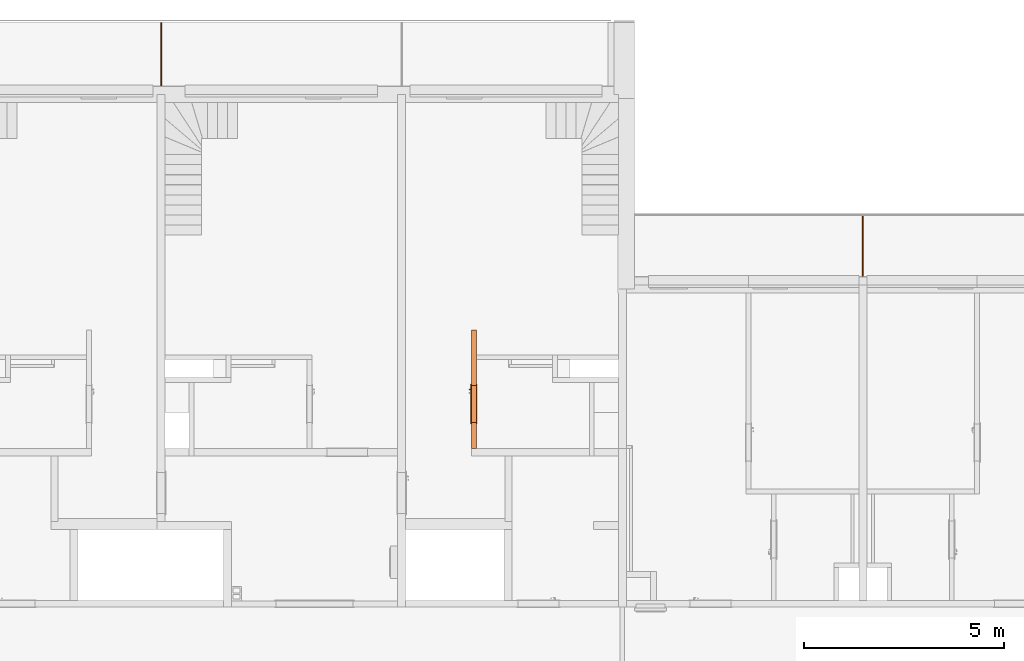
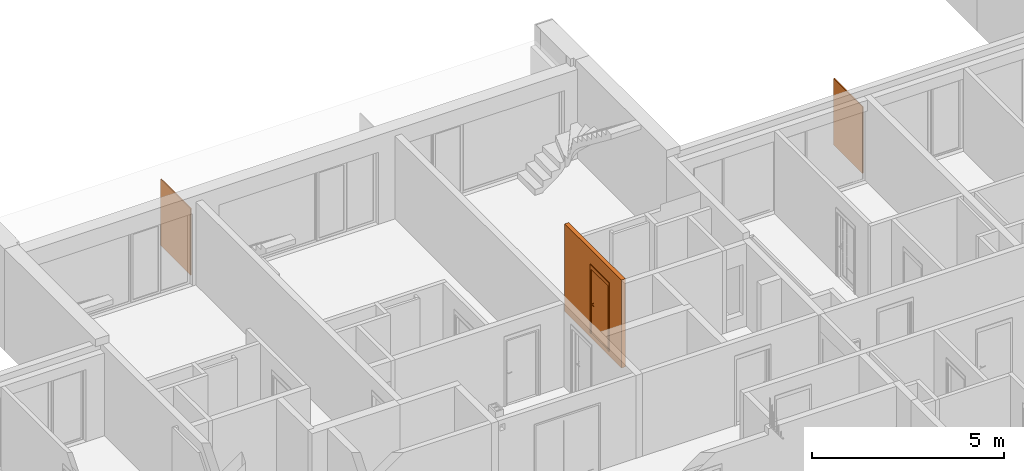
# One storey, part 32 of 61: 4 proxies, 1 opening.
"""IFC2X3 building model written with IfcOpenShell, lengths in millimetres."""

from ifc_helpers import new_model, entity, si_unit, converted_unit, derived_unit, money_unit, direction, frame, origin_with_axes, origin_2d_with_axis, place, context, subcontext, project, spatial, polyline, rectangle, outline, extrude, open_shell, faceted_brep, surface_model, source, transform, mapped, material, type_object, element, fill, save


model = new_model("IFC2X3")

# Units and contexts
model_context = context("Model", 3, precision=0.01, world=origin_with_axes(), true_north=direction((0.34421633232, 0.938890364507)))
body_context = subcontext(model_context, "Body", "Model", "MODEL_VIEW")
ifc_project = project(units=[si_unit("LENGTHUNIT", "METRE", prefix="MILLI"), si_unit("AREAUNIT", "SQUARE_METRE"), si_unit("VOLUMEUNIT", "CUBIC_METRE"), converted_unit("PLANEANGLEUNIT", "DEGREE", entity("IfcPlaneAngleMeasure", 0.0174532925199), si_unit("PLANEANGLEUNIT", "RADIAN"), dimensions=[0, 0, 0, 0, 0, 0, 0]), si_unit("SOLIDANGLEUNIT", "STERADIAN"), money_unit("USD"), converted_unit("TIMEUNIT", "Year", entity("IfcTimeMeasure", 31556926.0), si_unit("TIMEUNIT", "SECOND"), dimensions=[0, 0, 1, 0, 0, 0, 0]), si_unit("MASSUNIT", "GRAM", prefix="KILO"), si_unit("THERMODYNAMICTEMPERATUREUNIT", "DEGREE_CELSIUS"), si_unit("LUMINOUSINTENSITYUNIT", "LUMEN"), si_unit("ENERGYUNIT", "JOULE", prefix="MEGA"), derived_unit("THERMALCONDUCTANCEUNIT", [(si_unit("POWERUNIT", "WATT"), 1), (si_unit("LENGTHUNIT", "METRE"), -1), (si_unit("THERMODYNAMICTEMPERATUREUNIT", "KELVIN"), -1)]), derived_unit("SPECIFICHEATCAPACITYUNIT", [(si_unit("ENERGYUNIT", "JOULE"), 1), (si_unit("MASSUNIT", "GRAM", prefix="KILO"), -1), (si_unit("THERMODYNAMICTEMPERATUREUNIT", "KELVIN"), -1)]), derived_unit("MASSDENSITYUNIT", [(si_unit("MASSUNIT", "GRAM", prefix="KILO"), 1), (si_unit("VOLUMEUNIT", "CUBIC_METRE"), -1)])], contexts=[model_context])

# Site, building, storey
site_placement = place(None, origin_with_axes())
site = spatial("IfcSite", under=ifc_project, at=site_placement, Name="USTRONIE MORSKIE", CompositionType="ELEMENT")
building_placement = place(site_placement, origin_with_axes())
building = spatial("IfcBuilding", under=site, at=building_placement, Name="Budynek", CompositionType="ELEMENT")
storey_placement = place(building_placement, frame((0.0, 0.0, 13000.0), z_axis=(0.0, 0.0, 1.0), x_axis=(1.0, 0.0, 0.0)))
storey = spatial("IfcBuildingStorey", under=building, at=storey_placement, Name="PIĘTRO 4", CompositionType="ELEMENT", Elevation=13000.0)

# Proxies, opening
ifc_material_1 = material(Name="Bloczki silikatowe")
building_element_proxy_type_1 = type_object("IfcBuildingElementProxyType", Name="Bloczki silikatowe 120", PredefinedType="NOTDEFINED")
proxy_1_placement = place(storey_placement, frame((392617.911316, 743681.199036, -160.0), z_axis=(0.0, 0.0, 1.0), x_axis=(0.0, -1.0, 0.0)))
proxy_1 = element("IfcBuildingElementProxy", 1, at=proxy_1_placement, inside=storey, type_object=building_element_proxy_type_1, material=ifc_material_1, Name="SW-04", context=body_context, shape_type="Brep", body=[
    faceted_brep([(0.0, -60.0, 0.0), (0.0, -60.0, 2800.0), (0.0, 60.0, 2800.0), (0.0, 60.0, 0.0), (2960.0, -60.0, 0.0), (2960.0, -60.0, 2800.0), (2960.0, 60.0, 2800.0), (2960.0, 60.0, 0.0)], [[[0, 1, 2, 3]], [[4, 5, 1, 0]], [[5, 6, 2, 1]], [[3, 2, 6, 7]], [[0, 3, 7, 4]], [[7, 6, 5, 4]]]),
])
opening_placement = place(proxy_1_placement, frame((1850.00001479, 0.0, 160.0), z_axis=(0.0, 0.0, 1.0), x_axis=(1.0, 0.0, 0.0)))
opening = element("IfcOpeningElement", 2, at=opening_placement, cuts=proxy_1, Name="Dw.4", context=body_context, shape_type="SweptSolid", body=[
    extrude(rectangle(XDim=920.0, YDim=2070.0, at=origin_2d_with_axis()), frame((0.0, -120.0, 1035.0), z_axis=(0.0, -1.0, 0.0), x_axis=(1.0, 0.0, 0.0)), (0.0, 0.0, -1.0), 360.0),
    extrude(rectangle(XDim=994.0, YDim=2177.0, at=origin_2d_with_axis()), frame((0.0, -60.0, 1088.5), z_axis=(0.0, -1.0, 0.0), x_axis=(1.0, 0.0, 0.0)), (0.0, 0.0, 1.0), 120.0),
    extrude(rectangle(XDim=994.0, YDim=2177.0, at=origin_2d_with_axis()), frame((0.0, 60.0, 1088.5), z_axis=(0.0, 1.0, 0.0), x_axis=(1.0, 0.0, 0.0)), (0.0, 0.0, 1.0), 120.0),
])
building_element_proxy_type_2 = type_object("IfcBuildingElementProxyType", Name="Drzwi 23", PredefinedType="NOTDEFINED")
shared_shape = source(origin_with_axes(), body_context, "Body", "SurfaceModel", [
    faceted_brep([(460.0, 0.0, 0.0), (435.0, 0.0, 0.0), (435.0, 5.0, 0.0), (460.0, 5.0, 0.0), (460.0, 0.0, 2070.0), (435.0, 0.0, 2045.0), (435.0, 5.0, 2045.0), (460.0, 5.0, 2070.0)], [[[0, 1, 2, 3]], [[0, 4, 5, 1]], [[1, 5, 6, 2]], [[3, 2, 6, 7]], [[4, 0, 3, 7]], [[5, 4, 7, 6]]]),
    faceted_brep([(-460.0, 0.0, 2070.0), (-435.0, 0.0, 2045.0), (-435.0, 5.0, 2045.0), (-460.0, 5.0, 2070.0), (-460.0, 0.0, 0.0), (-435.0, 0.0, 0.0), (-435.0, 5.0, 0.0), (-460.0, 5.0, 0.0)], [[[0, 1, 2, 3]], [[0, 4, 5, 1]], [[1, 5, 6, 2]], [[3, 2, 6, 7]], [[4, 0, 3, 7]], [[5, 4, 7, 6]]]),
    faceted_brep([(435.0, 0.0, 2045.0), (-435.0, 0.0, 2045.0), (-435.0, 5.0, 2045.0), (435.0, 5.0, 2045.0), (460.0, 0.0, 2070.0), (-460.0, 0.0, 2070.0), (-460.0, 5.0, 2070.0), (460.0, 5.0, 2070.0)], [[[0, 1, 2, 3]], [[0, 4, 5, 1]], [[1, 5, 6, 2]], [[3, 2, 6, 7]], [[4, 0, 3, 7]], [[5, 4, 7, 6]]]),
    faceted_brep([(497.0, 24.0, 0.0), (497.0, 5.0, 0.0), (447.0, 5.0, 0.0), (447.0, 24.0, 0.0), (497.0, 24.0, 2177.0), (497.0, 5.0, 2177.0), (447.0, 5.0, 2057.0), (447.0, 24.0, 2057.0)], [[[0, 1, 2, 3]], [[4, 5, 1, 0]], [[1, 5, 6, 2]], [[3, 2, 6, 7]], [[0, 3, 7, 4]], [[7, 6, 5, 4]]]),
    faceted_brep([(-497.0, 24.0, 2177.0), (-497.0, 5.0, 2177.0), (-447.0, 5.0, 2057.0), (-447.0, 24.0, 2057.0), (-497.0, 24.0, 0.0), (-497.0, 5.0, 0.0), (-447.0, 5.0, 0.0), (-447.0, 24.0, 0.0)], [[[0, 1, 2, 3]], [[4, 5, 1, 0]], [[1, 5, 6, 2]], [[3, 2, 6, 7]], [[0, 3, 7, 4]], [[7, 6, 5, 4]]]),
    faceted_brep([(497.0, 24.0, 2177.0), (497.0, 5.0, 2177.0), (447.0, 5.0, 2057.0), (447.0, 24.0, 2057.0), (-497.0, 24.0, 2177.0), (-497.0, 5.0, 2177.0), (-447.0, 5.0, 2057.0), (-447.0, 24.0, 2057.0)], [[[0, 1, 2, 3]], [[4, 5, 1, 0]], [[1, 5, 6, 2]], [[3, 2, 6, 7]], [[0, 3, 7, 4]], [[7, 6, 5, 4]]]),
    faceted_brep([(497.0, -134.0, 0.0), (447.0, -134.0, 0.0), (447.0, -115.0, 0.0), (497.0, -115.0, 0.0), (497.0, -134.0, 2177.0), (447.0, -134.0, 2057.0), (447.0, -115.0, 2057.0), (497.0, -115.0, 2177.0)], [[[0, 1, 2, 3]], [[0, 4, 5, 1]], [[1, 5, 6, 2]], [[3, 2, 6, 7]], [[4, 0, 3, 7]], [[5, 4, 7, 6]]]),
    faceted_brep([(-497.0, -134.0, 2177.0), (-447.0, -134.0, 2057.0), (-447.0, -115.0, 2057.0), (-497.0, -115.0, 2177.0), (-497.0, -134.0, 0.0), (-447.0, -134.0, 0.0), (-447.0, -115.0, 0.0), (-497.0, -115.0, 0.0)], [[[0, 1, 2, 3]], [[0, 4, 5, 1]], [[1, 5, 6, 2]], [[3, 2, 6, 7]], [[4, 0, 3, 7]], [[5, 4, 7, 6]]]),
    faceted_brep([(497.0, -134.0, 2177.0), (447.0, -134.0, 2057.0), (447.0, -115.0, 2057.0), (497.0, -115.0, 2177.0), (-497.0, -134.0, 2177.0), (-447.0, -134.0, 2057.0), (-447.0, -115.0, 2057.0), (-497.0, -115.0, 2177.0)], [[[0, 1, 2, 3]], [[0, 4, 5, 1]], [[1, 5, 6, 2]], [[3, 2, 6, 7]], [[4, 0, 3, 7]], [[5, 4, 7, 6]]]),
    faceted_brep([(400.0, -40.0, 0.0), (400.0, -115.0, 0.0), (400.0, -115.0, 2000.0), (400.0, -40.0, 2000.0), (412.0, -40.0, 0.0), (412.0, 0.0, 0.0), (460.0, 0.0, 0.0), (460.0, -115.0, 0.0), (460.0, -115.0, 2000.0), (412.0, -40.0, 2000.0), (460.0, 0.0, 2000.0), (412.0, 0.0, 2000.0)], [[[0, 1, 2, 3]], [[4, 5, 6, 7, 1, 0]], [[1, 7, 8, 2]], [[9, 3, 2, 8, 10, 11]], [[9, 4, 0, 3]], [[11, 5, 4, 9]], [[11, 10, 6, 5]], [[6, 10, 8, 7]]]),
    faceted_brep([(-412.0, -40.0, 2000.0), (-412.0, 0.0, 2000.0), (-460.0, 0.0, 2000.0), (-460.0, -115.0, 2000.0), (-400.0, -115.0, 2000.0), (-400.0, -40.0, 2000.0), (-412.0, -40.0, 0.0), (-412.0, 0.0, 0.0), (-460.0, 0.0, 0.0), (-460.0, -115.0, 0.0), (-400.0, -115.0, 0.0), (-400.0, -40.0, 0.0)], [[[0, 1, 2, 3, 4, 5]], [[0, 6, 7, 1]], [[7, 8, 2, 1]], [[2, 8, 9, 3]], [[3, 9, 10, 4]], [[5, 4, 10, 11]], [[5, 11, 6, 0]], [[6, 11, 10, 9, 8, 7]]]),
    faceted_brep([(412.0, 0.0, 2012.0), (-412.0, 0.0, 2012.0), (-412.0, 0.0, 2000.0), (-460.0, 0.0, 2000.0), (-460.0, 0.0, 2070.0), (460.0, 0.0, 2070.0), (460.0, 0.0, 2000.0), (412.0, 0.0, 2000.0), (412.0, -40.0, 2012.0), (-412.0, -40.0, 2012.0), (-412.0, -40.0, 2000.0), (-400.0, -40.0, 2000.0), (-400.0, -115.0, 2000.0), (-460.0, -115.0, 2000.0), (-460.0, -115.0, 2070.0), (460.0, -115.0, 2070.0), (460.0, -115.0, 2000.0), (412.0, -40.0, 2000.0), (400.0, -115.0, 2000.0), (400.0, -40.0, 2000.0)], [[[0, 1, 2, 3, 4, 5, 6, 7]], [[0, 8, 9, 1]], [[1, 9, 10, 2]], [[10, 11, 12, 13, 3, 2]], [[4, 3, 13, 14]], [[5, 4, 14, 15]], [[6, 5, 15, 16]], [[17, 7, 6, 16, 18, 19]], [[7, 17, 8, 0]], [[10, 9, 8, 17, 19, 11]], [[19, 18, 12, 11]], [[12, 18, 16, 15, 14, 13]]]),
    faceted_brep([(390.5, -40.0, 1060.0), (333.5, -40.0, 1060.0), (333.5, -43.0, 1060.0), (390.5, -43.0, 1060.0), (390.5, -40.0, 870.0), (333.5, -40.0, 870.0), (333.5, -43.0, 870.0), (390.5, -43.0, 870.0)], [[[0, 1, 2, 3]], [[0, 4, 5, 1]], [[1, 5, 6, 2]], [[3, 2, 6, 7]], [[4, 0, 3, 7]], [[5, 4, 7, 6]]]),
    faceted_brep([(362.0, -104.0, 990.0), (367.0, -104.0, 991.339745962), (367.0, -111.0, 991.339745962), (362.0, -111.0, 990.0), (337.0, -104.0, 990.0), (337.0, -104.0, 1010.0), (362.0, -104.0, 1010.0), (367.0, -104.0, 1008.66025404), (370.660254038, -104.0, 1005.0), (372.0, -104.0, 1000.0), (370.660254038, -104.0, 995.0), (370.660254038, -111.0, 995.0), (372.0, -111.0, 1000.0), (370.660254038, -111.0, 1005.0), (367.0, -111.0, 1008.66025404), (362.0, -111.0, 1010.0), (337.0, -111.0, 1010.0), (337.0, -111.0, 990.0)], [[[0, 1, 2, 3]], [[0, 4, 5, 6, 7, 8, 9, 10, 1]], [[1, 10, 11, 2]], [[3, 2, 11, 12, 13, 14, 15, 16, 17]], [[4, 0, 3, 17]], [[5, 4, 17, 16]], [[6, 5, 16, 15]], [[7, 6, 15, 14]], [[8, 7, 14, 13]], [[9, 8, 13, 12]], [[10, 9, 12, 11]]]),
    surface_model("IfcShellBasedSurfaceModel", [(337.0, -104.0, 1010.0), (323.901717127, -104.0, 1009.60730092), (323.596090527, -111.0, 1009.60730092), (337.0, -104.0, 990.0), (323.901717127, -104.0, 990.392699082), (296.890283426, -108.663544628, 1008.82190275), (337.0, -111.0, 1010.0), (337.0, -111.0, 990.0), (297.804837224, -101.716818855, 991.178097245), (297.804837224, -101.716818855, 1008.82190275), (296.890283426, -108.663544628, 991.178097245), (323.596090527, -111.0, 990.392699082), (272.006256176, -97.1678329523, 991.963495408), (272.006256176, -97.1678329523, 1008.03650459), (270.489735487, -104.008415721, 1008.03650459), (270.489735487, -104.008415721, 991.963495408), (246.702316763, -90.3876628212, 992.748893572), (246.702316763, -90.3876628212, 1007.25110643), (244.59537082, -97.0700416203, 1007.25110643), (244.59537082, -97.0700416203, 992.748893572), (238.829442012, -87.5221707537, 993.0), (238.829442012, -87.5221707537, 1007.0), (236.538795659, -94.1376880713, 1007.0), (236.538795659, -94.1376880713, 993.0)], [open_shell([[[0, 1, 2]], [[0, 3, 4, 1]], [[1, 5, 2]], [[0, 2, 6]], [[4, 3, 7]], [[1, 4, 8, 9]], [[1, 9, 5]], [[2, 5, 10, 11]], [[6, 2, 11, 7]], [[4, 7, 11]], [[8, 4, 11]], [[9, 8, 12, 13]], [[9, 14, 5]], [[5, 14, 15, 10]], [[8, 11, 10]], [[12, 8, 10]], [[13, 12, 16, 17]], [[9, 13, 14]], [[14, 18, 19, 15]], [[12, 10, 15]], [[16, 12, 15]], [[17, 16, 20, 21]], [[13, 17, 18]], [[13, 18, 14]], [[18, 22, 23, 19]], [[16, 15, 19]], [[20, 16, 19]], [[21, 20, 23, 22]], [[17, 21, 22]], [[17, 22, 18]], [[20, 19, 23]]])]),
    faceted_brep([(351.607695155, -53.0, 994.0), (350.0, -53.0, 1000.0), (349.0, -43.0, 1000.0), (350.741669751, -43.0, 993.5), (356.0, -53.0, 989.607695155), (362.0, -53.0, 988.0), (368.0, -53.0, 989.607695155), (372.392304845, -53.0, 994.0), (374.0, -53.0, 1000.0), (372.392304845, -53.0, 1006.0), (368.0, -53.0, 1010.39230485), (362.0, -53.0, 1012.0), (356.0, -53.0, 1010.39230485), (351.607695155, -53.0, 1006.0), (350.741669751, -43.0, 1006.5), (355.5, -43.0, 1011.25833025), (362.0, -43.0, 1013.0), (368.5, -43.0, 1011.25833025), (373.258330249, -43.0, 1006.5), (375.0, -43.0, 1000.0), (373.258330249, -43.0, 993.5), (368.5, -43.0, 988.741669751), (362.0, -43.0, 987.0), (355.5, -43.0, 988.741669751)], [[[0, 1, 2, 3]], [[1, 0, 4, 5, 6, 7, 8, 9, 10, 11, 12, 13]], [[1, 13, 14, 2]], [[2, 14, 15, 16, 17, 18, 19, 20, 21, 22, 23, 3]], [[4, 0, 3, 23]], [[5, 4, 23, 22]], [[6, 5, 22, 21]], [[7, 6, 21, 20]], [[8, 7, 20, 19]], [[9, 8, 19, 18]], [[10, 9, 18, 17]], [[11, 10, 17, 16]], [[12, 11, 16, 15]], [[13, 12, 15, 14]]]),
    faceted_brep([(344.679491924, -47.0, 895.0), (342.0, -47.0, 905.0), (340.0, -43.0, 905.0), (342.947441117, -43.0, 894.0), (352.0, -47.0, 887.679491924), (362.0, -47.0, 885.0), (372.0, -47.0, 887.679491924), (379.320508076, -47.0, 895.0), (382.0, -47.0, 905.0), (379.320508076, -47.0, 915.0), (372.0, -47.0, 922.320508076), (362.0, -47.0, 925.0), (352.0, -47.0, 922.320508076), (344.679491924, -47.0, 915.0), (342.947441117, -43.0, 916.0), (351.0, -43.0, 924.052558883), (362.0, -43.0, 927.0), (373.0, -43.0, 924.052558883), (381.052558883, -43.0, 916.0), (384.0, -43.0, 905.0), (381.052558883, -43.0, 894.0), (373.0, -43.0, 885.947441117), (362.0, -43.0, 883.0), (351.0, -43.0, 885.947441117)], [[[0, 1, 2, 3]], [[1, 0, 4, 5, 6, 7, 8, 9, 10, 11, 12, 13]], [[1, 13, 14, 2]], [[2, 14, 15, 16, 17, 18, 19, 20, 21, 22, 23, 3]], [[4, 0, 3, 23]], [[5, 4, 23, 22]], [[6, 5, 22, 21]], [[7, 6, 21, 20]], [[8, 7, 20, 19]], [[9, 8, 19, 18]], [[10, 9, 18, 17]], [[11, 10, 17, 16]], [[12, 11, 16, 15]], [[13, 12, 15, 14]]]),
    faceted_brep([(357.050252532, -49.0, 909.050252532), (355.0, -49.0, 914.0), (354.0, -47.0, 914.0), (356.343145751, -47.0, 908.343145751), (362.0, -49.0, 907.0), (366.949747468, -49.0, 909.050252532), (369.0, -49.0, 914.0), (366.949747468, -49.0, 918.949747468), (362.0, -49.0, 921.0), (357.050252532, -49.0, 918.949747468), (356.343145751, -47.0, 919.656854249), (362.0, -47.0, 922.0), (367.656854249, -47.0, 919.656854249), (370.0, -47.0, 914.0), (367.656854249, -47.0, 908.343145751), (362.0, -47.0, 906.0)], [[[0, 1, 2, 3]], [[1, 0, 4, 5, 6, 7, 8, 9]], [[1, 9, 10, 2]], [[2, 10, 11, 12, 13, 14, 15, 3]], [[4, 0, 3, 15]], [[5, 4, 15, 14]], [[6, 5, 14, 13]], [[7, 6, 13, 12]], [[8, 7, 12, 11]], [[9, 8, 11, 10]]]),
    faceted_brep([(362.0, -53.0, 1010.0), (357.0, -53.0, 1008.66025404), (357.0, -104.0, 1008.66025404), (362.0, -104.0, 1010.0), (367.0, -53.0, 1008.66025404), (370.660254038, -53.0, 1005.0), (372.0, -53.0, 1000.0), (370.660254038, -53.0, 995.0), (367.0, -53.0, 991.339745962), (362.0, -53.0, 990.0), (357.0, -53.0, 991.339745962), (353.339745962, -53.0, 995.0), (352.0, -53.0, 1000.0), (353.339745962, -53.0, 1005.0), (353.339745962, -104.0, 1005.0), (352.0, -104.0, 1000.0), (353.339745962, -104.0, 995.0), (357.0, -104.0, 991.339745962), (362.0, -104.0, 990.0), (367.0, -104.0, 991.339745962), (370.660254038, -104.0, 995.0), (372.0, -104.0, 1000.0), (370.660254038, -104.0, 1005.0), (367.0, -104.0, 1008.66025404)], [[[0, 1, 2, 3]], [[0, 4, 5, 6, 7, 8, 9, 10, 11, 12, 13, 1]], [[1, 13, 14, 2]], [[3, 2, 14, 15, 16, 17, 18, 19, 20, 21, 22, 23]], [[4, 0, 3, 23]], [[5, 4, 23, 22]], [[6, 5, 22, 21]], [[7, 6, 21, 20]], [[8, 7, 20, 19]], [[9, 8, 19, 18]], [[10, 9, 18, 17]], [[11, 10, 17, 16]], [[12, 11, 16, 15]], [[13, 12, 15, 14]]]),
    faceted_brep([(390.5, 0.0, 1060.0), (390.5, 3.0, 1060.0), (333.5, 3.0, 1060.0), (333.5, 0.0, 1060.0), (390.5, 0.0, 870.0), (390.5, 3.0, 870.0), (333.5, 3.0, 870.0), (333.5, 0.0, 870.0)], [[[0, 1, 2, 3]], [[4, 5, 1, 0]], [[1, 5, 6, 2]], [[3, 2, 6, 7]], [[0, 3, 7, 4]], [[7, 6, 5, 4]]]),
    faceted_brep([(362.0, 64.0, 990.0), (362.0, 71.0, 990.0), (367.0, 71.0, 991.339745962), (367.0, 64.0, 991.339745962), (337.0, 64.0, 990.0), (337.0, 71.0, 990.0), (337.0, 71.0, 1010.0), (362.0, 71.0, 1010.0), (367.0, 71.0, 1008.66025404), (370.660254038, 71.0, 1005.0), (372.0, 71.0, 1000.0), (370.660254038, 71.0, 995.0), (370.660254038, 64.0, 995.0), (372.0, 64.0, 1000.0), (370.660254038, 64.0, 1005.0), (367.0, 64.0, 1008.66025404), (362.0, 64.0, 1010.0), (337.0, 64.0, 1010.0)], [[[0, 1, 2, 3]], [[4, 5, 1, 0]], [[1, 5, 6, 7, 8, 9, 10, 11, 2]], [[3, 2, 11, 12]], [[0, 3, 12, 13, 14, 15, 16, 17, 4]], [[17, 6, 5, 4]], [[16, 7, 6, 17]], [[15, 8, 7, 16]], [[14, 9, 8, 15]], [[13, 10, 9, 14]], [[12, 11, 10, 13]]]),
    surface_model("IfcShellBasedSurfaceModel", [(337.0, 64.0, 1010.0), (323.596090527, 71.0, 1009.60730092), (323.901717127, 64.0, 1009.60730092), (337.0, 71.0, 1010.0), (296.890283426, 68.6635446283, 1008.82190275), (323.901717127, 64.0, 990.392699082), (337.0, 64.0, 990.0), (337.0, 71.0, 990.0), (323.596090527, 71.0, 990.392699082), (296.890283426, 68.6635446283, 991.178097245), (297.804837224, 61.716818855, 1008.82190275), (297.804837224, 61.716818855, 991.178097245), (270.489735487, 64.0084157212, 991.963495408), (270.489735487, 64.0084157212, 1008.03650459), (272.006256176, 57.1678329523, 1008.03650459), (272.006256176, 57.1678329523, 991.963495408), (244.59537082, 57.0700416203, 992.748893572), (244.59537082, 57.0700416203, 1007.25110643), (246.702316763, 50.3876628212, 1007.25110643), (246.702316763, 50.3876628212, 992.748893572), (236.538795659, 54.1376880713, 993.0), (236.538795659, 54.1376880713, 1007.0), (238.829442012, 47.5221707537, 1007.0), (238.829442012, 47.5221707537, 993.0)], [open_shell([[[0, 1, 2]], [[0, 3, 1]], [[2, 1, 4]], [[0, 2, 5, 6]], [[3, 7, 8, 1]], [[1, 8, 9, 4]], [[2, 4, 10]], [[2, 10, 11, 5]], [[5, 7, 6]], [[5, 8, 7]], [[11, 9, 8]], [[4, 9, 12, 13]], [[10, 4, 13]], [[10, 14, 15, 11]], [[11, 8, 5]], [[15, 9, 11]], [[15, 12, 9]], [[13, 12, 16, 17]], [[10, 13, 14]], [[14, 18, 19, 15]], [[19, 12, 15]], [[19, 16, 12]], [[17, 16, 20, 21]], [[14, 13, 17]], [[14, 17, 18]], [[18, 22, 23, 19]], [[23, 16, 19]], [[23, 20, 16]], [[22, 21, 20, 23]], [[18, 17, 21]], [[18, 21, 22]]])]),
    faceted_brep([(351.607695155, 13.0, 994.0), (350.741669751, 3.0, 993.5), (349.0, 3.0, 1000.0), (350.0, 13.0, 1000.0), (356.0, 13.0, 989.607695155), (355.5, 3.0, 988.741669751), (362.0, 3.0, 987.0), (368.5, 3.0, 988.741669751), (373.258330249, 3.0, 993.5), (375.0, 3.0, 1000.0), (373.258330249, 3.0, 1006.5), (368.5, 3.0, 1011.25833025), (362.0, 3.0, 1013.0), (355.5, 3.0, 1011.25833025), (350.741669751, 3.0, 1006.5), (351.607695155, 13.0, 1006.0), (356.0, 13.0, 1010.39230485), (362.0, 13.0, 1012.0), (368.0, 13.0, 1010.39230485), (372.392304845, 13.0, 1006.0), (374.0, 13.0, 1000.0), (372.392304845, 13.0, 994.0), (368.0, 13.0, 989.607695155), (362.0, 13.0, 988.0)], [[[0, 1, 2, 3]], [[4, 5, 1, 0]], [[2, 1, 5, 6, 7, 8, 9, 10, 11, 12, 13, 14]], [[3, 2, 14, 15]], [[3, 15, 16, 17, 18, 19, 20, 21, 22, 23, 4, 0]], [[23, 6, 5, 4]], [[22, 7, 6, 23]], [[21, 8, 7, 22]], [[20, 9, 8, 21]], [[19, 10, 9, 20]], [[18, 11, 10, 19]], [[17, 12, 11, 18]], [[16, 13, 12, 17]], [[15, 14, 13, 16]]]),
    faceted_brep([(344.679491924, 7.0, 895.0), (342.947441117, 3.0, 894.0), (340.0, 3.0, 905.0), (342.0, 7.0, 905.0), (352.0, 7.0, 887.679491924), (351.0, 3.0, 885.947441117), (362.0, 3.0, 883.0), (373.0, 3.0, 885.947441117), (381.052558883, 3.0, 894.0), (384.0, 3.0, 905.0), (381.052558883, 3.0, 916.0), (373.0, 3.0, 924.052558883), (362.0, 3.0, 927.0), (351.0, 3.0, 924.052558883), (342.947441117, 3.0, 916.0), (344.679491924, 7.0, 915.0), (352.0, 7.0, 922.320508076), (362.0, 7.0, 925.0), (372.0, 7.0, 922.320508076), (379.320508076, 7.0, 915.0), (382.0, 7.0, 905.0), (379.320508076, 7.0, 895.0), (372.0, 7.0, 887.679491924), (362.0, 7.0, 885.0)], [[[0, 1, 2, 3]], [[4, 5, 1, 0]], [[2, 1, 5, 6, 7, 8, 9, 10, 11, 12, 13, 14]], [[3, 2, 14, 15]], [[3, 15, 16, 17, 18, 19, 20, 21, 22, 23, 4, 0]], [[23, 6, 5, 4]], [[22, 7, 6, 23]], [[21, 8, 7, 22]], [[20, 9, 8, 21]], [[19, 10, 9, 20]], [[18, 11, 10, 19]], [[17, 12, 11, 18]], [[16, 13, 12, 17]], [[15, 14, 13, 16]]]),
    faceted_brep([(357.050252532, 9.0, 909.050252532), (356.343145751, 7.0, 908.343145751), (354.0, 7.0, 914.0), (355.0, 9.0, 914.0), (362.0, 9.0, 907.0), (362.0, 7.0, 906.0), (367.656854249, 7.0, 908.343145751), (370.0, 7.0, 914.0), (367.656854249, 7.0, 919.656854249), (362.0, 7.0, 922.0), (356.343145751, 7.0, 919.656854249), (357.050252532, 9.0, 918.949747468), (362.0, 9.0, 921.0), (366.949747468, 9.0, 918.949747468), (369.0, 9.0, 914.0), (366.949747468, 9.0, 909.050252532)], [[[0, 1, 2, 3]], [[4, 5, 1, 0]], [[2, 1, 5, 6, 7, 8, 9, 10]], [[3, 2, 10, 11]], [[3, 11, 12, 13, 14, 15, 4, 0]], [[15, 6, 5, 4]], [[14, 7, 6, 15]], [[13, 8, 7, 14]], [[12, 9, 8, 13]], [[11, 10, 9, 12]]]),
    faceted_brep([(362.0, 13.0, 1010.0), (362.0, 64.0, 1010.0), (357.0, 64.0, 1008.66025404), (357.0, 13.0, 1008.66025404), (367.0, 13.0, 1008.66025404), (367.0, 64.0, 1008.66025404), (370.660254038, 64.0, 1005.0), (372.0, 64.0, 1000.0), (370.660254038, 64.0, 995.0), (367.0, 64.0, 991.339745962), (362.0, 64.0, 990.0), (357.0, 64.0, 991.339745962), (353.339745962, 64.0, 995.0), (352.0, 64.0, 1000.0), (353.339745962, 64.0, 1005.0), (353.339745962, 13.0, 1005.0), (352.0, 13.0, 1000.0), (353.339745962, 13.0, 995.0), (357.0, 13.0, 991.339745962), (362.0, 13.0, 990.0), (367.0, 13.0, 991.339745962), (370.660254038, 13.0, 995.0), (372.0, 13.0, 1000.0), (370.660254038, 13.0, 1005.0)], [[[0, 1, 2, 3]], [[4, 5, 1, 0]], [[1, 5, 6, 7, 8, 9, 10, 11, 12, 13, 14, 2]], [[3, 2, 14, 15]], [[0, 3, 15, 16, 17, 18, 19, 20, 21, 22, 23, 4]], [[23, 6, 5, 4]], [[22, 7, 6, 23]], [[21, 8, 7, 22]], [[20, 9, 8, 21]], [[19, 10, 9, 20]], [[18, 11, 10, 19]], [[17, 12, 11, 18]], [[16, 13, 12, 17]], [[15, 14, 13, 16]]]),
    faceted_brep([(-412.0, 0.0, 0.0), (412.0, 0.0, 0.0), (412.0, -40.0, 0.0), (-412.0, -40.0, 0.0), (-412.0, 0.0, 2012.0), (412.0, 0.0, 2012.0), (412.0, -40.0, 2012.0), (-412.0, -40.0, 2012.0)], [[[0, 1, 2, 3]], [[0, 4, 5, 1]], [[1, 5, 6, 2]], [[3, 2, 6, 7]], [[4, 0, 3, 7]], [[5, 4, 7, 6]]]),
])
proxy_2_placement = place(opening_placement, frame((400.0, 0.0, 0.0), z_axis=(0.0, 0.0, 1.0), x_axis=(-1.0, 0.0, 0.0)))
proxy_2 = element("IfcBuildingElementProxy", 3, at=proxy_2_placement, inside=storey, type_object=building_element_proxy_type_2, Name="Dw.4", context=body_context, shape_type="MappedRepresentation", body=[
    mapped(shared_shape, transform((400.0, 55.0, 0.0))),
])
fill(opening, proxy_2)

# Proxies
ifc_material_2 = material(Name="Woda")
building_element_proxy_type_3 = type_object("IfcBuildingElementProxyType", Name="Woda 30", PredefinedType="NOTDEFINED")
proxy_3_placement = place(storey_placement, frame((402317.920919, 745021.206184, 20.0), z_axis=(0.0, 0.0, 1.0), x_axis=(0.0, 1.0, 0.0)))
element("IfcBuildingElementProxy", 4, at=proxy_3_placement, inside=storey, type_object=building_element_proxy_type_3, material=ifc_material_2, Name="Œciana-007", context=body_context, shape_type="SweptSolid", body=[
    extrude(outline(polyline([(0.0, -15.0), (1500.0, -15.0), (1500.0, 15.0), (0.0, 15.0), (0.0, -15.0)])), origin_with_axes(), (0.0, 0.0, 1.0), 2120.0),
])
proxy_4_placement = place(storey_placement, frame((384817.920919, 749771.199036, 20.0), z_axis=(0.0, 0.0, 1.0), x_axis=(0.0, 1.0, 0.0)))
element("IfcBuildingElementProxy", 5, at=proxy_4_placement, inside=storey, type_object=building_element_proxy_type_3, material=ifc_material_2, Name="Œciana-007", context=body_context, shape_type="SweptSolid", body=[
    extrude(outline(polyline([(0.0, -15.0), (1570.0, -15.0), (1570.0, 15.0), (0.0, 15.0), (0.0, -15.0)])), origin_with_axes(), (0.0, 0.0, 1.0), 2120.0),
])

save(model, "model.ifc")
